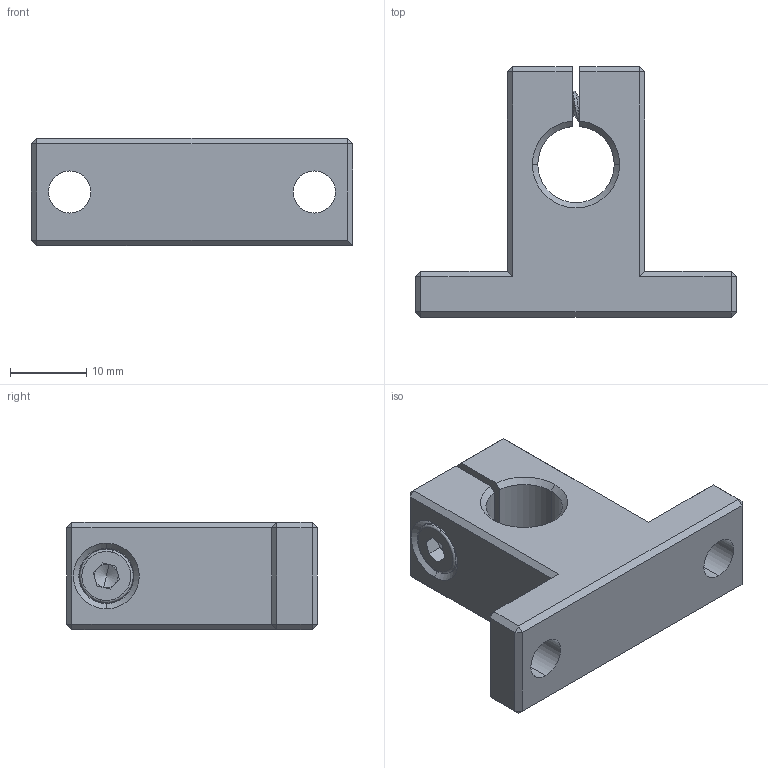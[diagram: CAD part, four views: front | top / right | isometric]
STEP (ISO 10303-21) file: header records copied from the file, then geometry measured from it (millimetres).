
FILE_DESCRIPTION (( 'STEP AP214' ), '1' );
FILE_NAME ('SK10.STEP', '2020-06-29T09:25:11', ( '' ), ( '' ), 'SwSTEP 2.0', 'SolidWorks 2018', '' );
FILE_SCHEMA (( 'AUTOMOTIVE_DESIGN' ));
Length unit declared in the file: millimetre
Products named in the file (3): SK10 Part2; SK10 Part1; SK10
Assembly tree (2 placements, depth 2):
  SK10
    SK10 Part1
    SK10 Part2
Bounding box: 42 x 32.8 x 14 mm (x, y, z)
Volume: 8574.1 mm3; surface area: 4513.1 mm2
Topology: 2 solids, 2 shells, 122 faces, 286 edges, 169 vertices
Faces by surface type: plane 62, cylinder 32, cone 18, bspline 6, torus 4
Entity records: 7364 total; most frequent: CARTESIAN_POINT 4560, ORIENTED_EDGE 568, DIRECTION 552, EDGE_CURVE 284, AXIS2_PLACEMENT_3D 191, LINE 170, VECTOR 170, VERTEX_POINT 169
